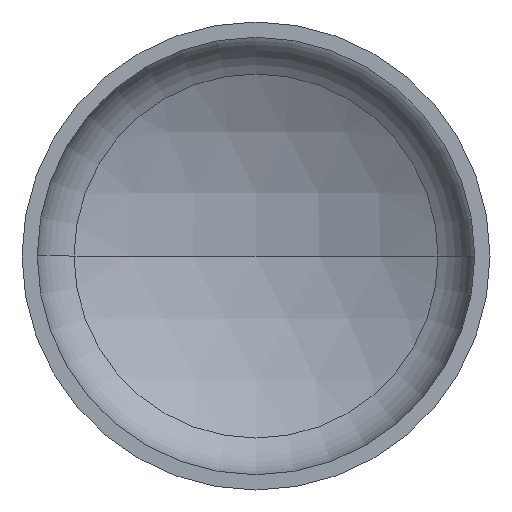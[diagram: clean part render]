
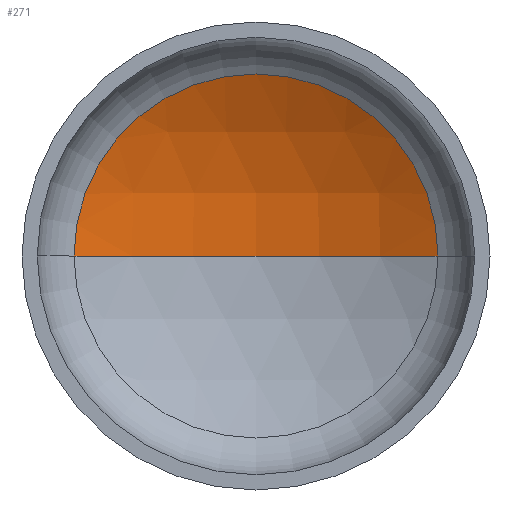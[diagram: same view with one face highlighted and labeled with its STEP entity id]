
A CAD part, front view. The second image highlights one B-rep face of the part: STEP entity #271.
In plain terms, the highlighted spherical face has radius 1520 mm.
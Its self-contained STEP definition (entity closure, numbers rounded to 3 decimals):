
#1 = EDGE_LOOP ( 'NONE', ( #23, #110, #118 ) ) ;
#13 = VERTEX_POINT ( 'NONE', #299 ) ;
#19 = CARTESIAN_POINT ( 'NONE',  ( 738.992, 373.419, 0. ) ) ;
#23 = ORIENTED_EDGE ( 'NONE', *, *, #136, .F. ) ;
#27 = AXIS2_PLACEMENT_3D ( 'NONE', #154, #208, #199 ) ;
#57 = AXIS2_PLACEMENT_3D ( 'NONE', #385, #246, #404 ) ;
#64 = VERTEX_POINT ( 'NONE', #19 ) ;
#66 = CARTESIAN_POINT ( 'NONE',  ( 0., -954.847, 0. ) ) ;
#67 = DIRECTION ( 'NONE',  ( -1., 0., 0. ) ) ;
#70 = VERTEX_POINT ( 'NONE', #221 ) ;
#89 = EDGE_CURVE ( 'NONE', #13, #64, #383, .T. ) ;
#110 = ORIENTED_EDGE ( 'NONE', *, *, #89, .T. ) ;
#118 = ORIENTED_EDGE ( 'NONE', *, *, #359, .T. ) ;
#136 = EDGE_CURVE ( 'NONE', #13, #70, #190, .T. ) ;
#150 = DIRECTION ( 'NONE',  ( 0., 0., -1. ) ) ;
#154 = CARTESIAN_POINT ( 'NONE',  ( 0., -954.847, 0. ) ) ;
#157 = FACE_OUTER_BOUND ( 'NONE', #1, .T. ) ;
#190 = CIRCLE ( 'NONE', #27, 1520. ) ;
#199 = DIRECTION ( 'NONE',  ( 1., 0., 0. ) ) ;
#202 = CIRCLE ( 'NONE', #57, 738.992 ) ;
#208 = DIRECTION ( 'NONE',  ( 0., 0., 1. ) ) ;
#209 = DIRECTION ( 'NONE',  ( -1., 0., 0. ) ) ;
#210 = CARTESIAN_POINT ( 'NONE',  ( 0., -954.847, 0. ) ) ;
#221 = CARTESIAN_POINT ( 'NONE',  ( -738.992, 373.419, 0. ) ) ;
#246 = DIRECTION ( 'NONE',  ( 0., -1., 0. ) ) ;
#271 = ADVANCED_FACE ( 'NONE', ( #157 ), #307, .F. ) ;
#292 = DIRECTION ( 'NONE',  ( 0., 0., -1. ) ) ;
#299 = CARTESIAN_POINT ( 'NONE',  ( 0., 565.153, 0. ) ) ;
#307 = SPHERICAL_SURFACE ( 'NONE', #367, 1520. ) ;
#359 = EDGE_CURVE ( 'NONE', #64, #70, #202, .T. ) ;
#367 = AXIS2_PLACEMENT_3D ( 'NONE', #66, #292, #67 ) ;
#383 = CIRCLE ( 'NONE', #395, 1520. ) ;
#385 = CARTESIAN_POINT ( 'NONE',  ( 0., 373.419, 0. ) ) ;
#395 = AXIS2_PLACEMENT_3D ( 'NONE', #210, #150, #209 ) ;
#404 = DIRECTION ( 'NONE',  ( 1., 0., 0. ) ) ;
